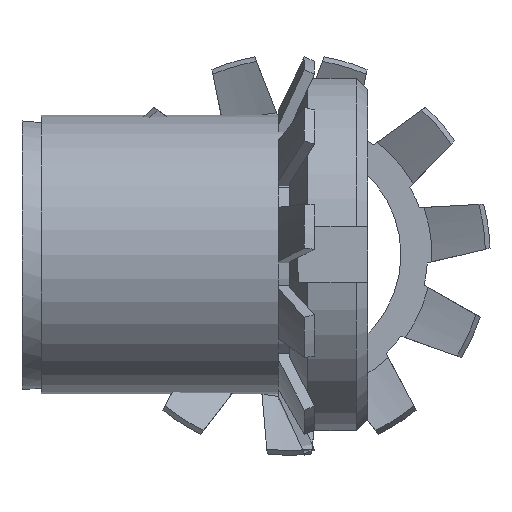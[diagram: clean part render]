
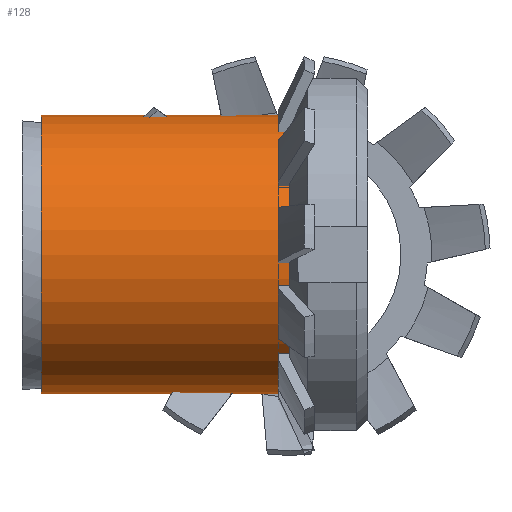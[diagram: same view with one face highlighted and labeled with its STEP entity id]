
A CAD part, left-side view. The second image highlights one B-rep face of the part: STEP entity #128.
In plain terms, the highlighted cylindrical face has radius 12.5 mm (diameter 25 mm), a full revolution.
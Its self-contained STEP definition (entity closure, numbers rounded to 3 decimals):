
#128 = ADVANCED_FACE( '', ( #252, #253 ), #254, .T. );
#252 = FACE_OUTER_BOUND( '', #382, .T. );
#253 = FACE_OUTER_BOUND( '', #383, .T. );
#254 = CYLINDRICAL_SURFACE( '', #384, 12.5 );
#382 = EDGE_LOOP( '', ( #718 ) );
#383 = EDGE_LOOP( '', ( #719 ) );
#384 = AXIS2_PLACEMENT_3D( '', #720, #721, #722 );
#718 = ORIENTED_EDGE( '', *, *, #1057, .F. );
#719 = ORIENTED_EDGE( '', *, *, #1076, .T. );
#720 = CARTESIAN_POINT( '', ( 0., -60., 0. ) );
#721 = DIRECTION( '', ( 0., 1., 0. ) );
#722 = DIRECTION( '', ( 0., 0., -1. ) );
#1057 = EDGE_CURVE( '', #1383, #1383, #1384, .T. );
#1076 = EDGE_CURVE( '', #1408, #1408, #1409, .T. );
#1383 = VERTEX_POINT( '', #2329 );
#1384 = CIRCLE( '', #2330, 12.5 );
#1408 = VERTEX_POINT( '', #2370 );
#1409 = CIRCLE( '', #2371, 12.5 );
#2329 = CARTESIAN_POINT( '', ( 0., 0., -12.5 ) );
#2330 = AXIS2_PLACEMENT_3D( '', #2708, #2709, #2710 );
#2370 = CARTESIAN_POINT( '', ( 0., 22.278, -12.5 ) );
#2371 = AXIS2_PLACEMENT_3D( '', #2721, #2722, #2723 );
#2708 = CARTESIAN_POINT( '', ( 0., 0., 0. ) );
#2709 = DIRECTION( '', ( 0., -1., 0. ) );
#2710 = DIRECTION( '', ( 0., 0., -1. ) );
#2721 = CARTESIAN_POINT( '', ( 0., 22.278, 0. ) );
#2722 = DIRECTION( '', ( 0., -1., 0. ) );
#2723 = DIRECTION( '', ( 0., 0., -1. ) );
